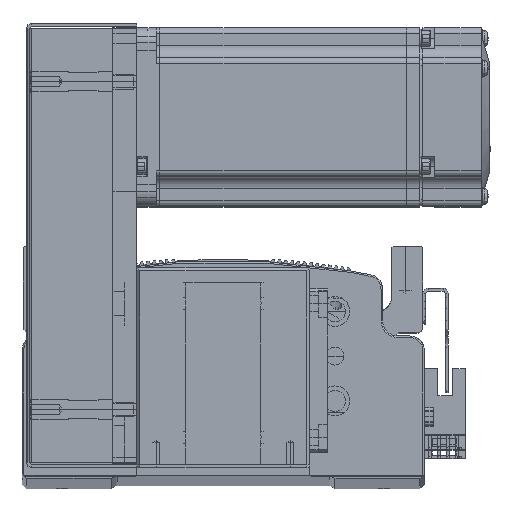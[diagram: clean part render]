
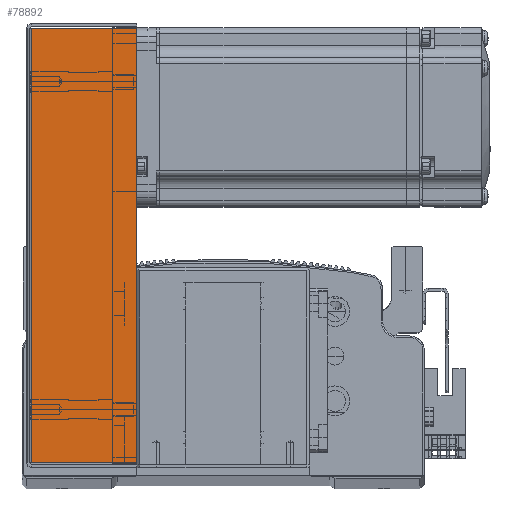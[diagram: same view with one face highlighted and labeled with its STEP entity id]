
A CAD part, top view. The second image highlights one B-rep face of the part: STEP entity #78892.
In plain terms, the highlighted planar face has unit normal (0, 0, 1).
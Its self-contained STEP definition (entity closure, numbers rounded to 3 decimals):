
#1981 = LINE ( 'NONE', #15029, #2024 ) ;
#1982 = VECTOR ( 'NONE', #15073, 1000. ) ;
#1989 = LINE ( 'NONE', #14980, #1998 ) ;
#1995 = LINE ( 'NONE', #14989, #2035 ) ;
#1996 = LINE ( 'NONE', #15091, #1982 ) ;
#1998 = VECTOR ( 'NONE', #15002, 1000. ) ;
#2024 = VECTOR ( 'NONE', #15031, 1000. ) ;
#2035 = VECTOR ( 'NONE', #14997, 1000. ) ;
#10566 = VERTEX_POINT ( 'NONE', #33401 ) ;
#14980 = CARTESIAN_POINT ( 'NONE',  ( 0., 36., 34.5 ) ) ;
#14989 = CARTESIAN_POINT ( 'NONE',  ( -74.5, 0.737, 34.5 ) ) ;
#14997 = DIRECTION ( 'NONE',  ( -1., 0., 0. ) ) ;
#15002 = DIRECTION ( 'NONE',  ( -1., 0., 0. ) ) ;
#15029 = CARTESIAN_POINT ( 'NONE',  ( 72.793, 0., 34.5 ) ) ;
#15031 = DIRECTION ( 'NONE',  ( 0., 1., 0. ) ) ;
#15073 = DIRECTION ( 'NONE',  ( 0., 1., 0. ) ) ;
#15091 = CARTESIAN_POINT ( 'NONE',  ( -72.793, 0., 34.5 ) ) ;
#16045 = EDGE_LOOP ( 'NONE', ( #55264, #55224, #55367, #55492 ) ) ;
#21222 = DIRECTION ( 'NONE',  ( -1., 0., 0. ) ) ;
#21245 = DIRECTION ( 'NONE',  ( 0., 0., -1. ) ) ;
#21250 = CARTESIAN_POINT ( 'NONE',  ( 0., 0., 34.5 ) ) ;
#21273 = PLANE ( 'NONE',  #66429 ) ;
#23490 = CARTESIAN_POINT ( 'NONE',  ( -72.793, 0.737, 34.5 ) ) ;
#23513 = CARTESIAN_POINT ( 'NONE',  ( -72.793, 36., 34.5 ) ) ;
#26347 = EDGE_CURVE ( 'NONE', #71939, #35923, #1989, .T. ) ;
#26349 = EDGE_CURVE ( 'NONE', #10566, #35918, #1995, .T. ) ;
#26392 = EDGE_CURVE ( 'NONE', #10566, #71939, #1981, .T. ) ;
#26411 = EDGE_CURVE ( 'NONE', #35918, #35923, #1996, .T. ) ;
#33401 = CARTESIAN_POINT ( 'NONE',  ( 72.793, 0.737, 34.5 ) ) ;
#35918 = VERTEX_POINT ( 'NONE', #23490 ) ;
#35923 = VERTEX_POINT ( 'NONE', #23513 ) ;
#49406 = FACE_OUTER_BOUND ( 'NONE', #16045, .T. ) ;
#55224 = ORIENTED_EDGE ( 'NONE', *, *, #26392, .T. ) ;
#55264 = ORIENTED_EDGE ( 'NONE', *, *, #26349, .F. ) ;
#55367 = ORIENTED_EDGE ( 'NONE', *, *, #26347, .T. ) ;
#55492 = ORIENTED_EDGE ( 'NONE', *, *, #26411, .F. ) ;
#66429 = AXIS2_PLACEMENT_3D ( 'NONE', #21250, #21245, #21222 ) ;
#71939 = VERTEX_POINT ( 'NONE', #85910 ) ;
#78892 = ADVANCED_FACE ( 'NONE', ( #49406 ), #21273, .F. ) ;
#85910 = CARTESIAN_POINT ( 'NONE',  ( 72.793, 36., 34.5 ) ) ;
